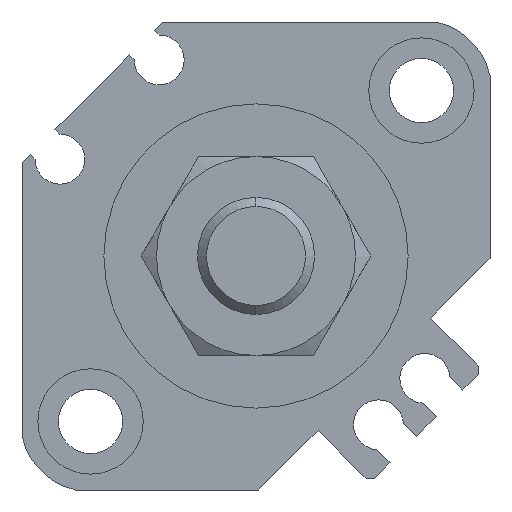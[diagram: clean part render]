
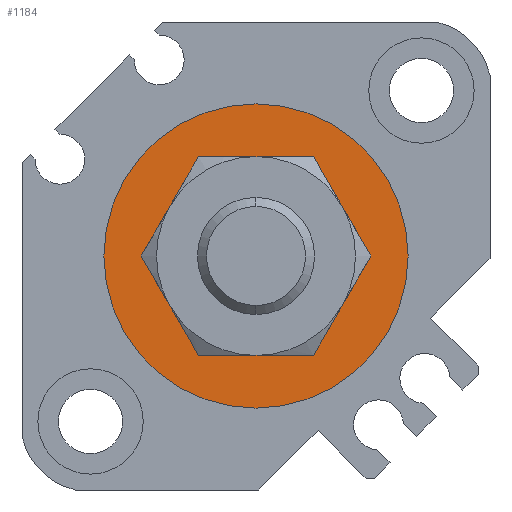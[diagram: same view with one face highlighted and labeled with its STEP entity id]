
A CAD part, left-side view. The second image highlights one B-rep face of the part: STEP entity #1184.
In plain terms, the highlighted planar face has unit normal (-1, 0, 0).
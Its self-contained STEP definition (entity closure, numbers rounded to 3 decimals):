
#148 = CARTESIAN_POINT ( 'NONE',  ( 1.9, 0., 0. ) ) ;
#215 = DIRECTION ( 'NONE',  ( 1., 0., 0. ) ) ;
#335 = DIRECTION ( 'NONE',  ( 0., 0., -1. ) ) ;
#379 = EDGE_LOOP ( 'NONE', ( #3231, #2285 ) ) ;
#416 = EDGE_CURVE ( 'NONE', #3342, #2875, #1577, .T. ) ;
#439 = CARTESIAN_POINT ( 'NONE',  ( 1.9, 0., -13. ) ) ;
#587 = VERTEX_POINT ( 'NONE', #439 ) ;
#630 = AXIS2_PLACEMENT_3D ( 'NONE', #3228, #215, #3946 ) ;
#992 = CIRCLE ( 'NONE', #2401, 7.5 ) ;
#1136 = DIRECTION ( 'NONE',  ( 1., 0., 0. ) ) ;
#1184 = ADVANCED_FACE ( 'NONE', ( #2029, #5380 ), #1594, .F. ) ;
#1577 = CIRCLE ( 'NONE', #3750, 7.5 ) ;
#1594 = PLANE ( 'NONE',  #2707 ) ;
#2029 = FACE_OUTER_BOUND ( 'NONE', #2983, .T. ) ;
#2285 = ORIENTED_EDGE ( 'NONE', *, *, #416, .T. ) ;
#2401 = AXIS2_PLACEMENT_3D ( 'NONE', #4690, #2982, #3808 ) ;
#2489 = DIRECTION ( 'NONE',  ( 1., 0., 0. ) ) ;
#2538 = DIRECTION ( 'NONE',  ( 0., 0., -1. ) ) ;
#2539 = CARTESIAN_POINT ( 'NONE',  ( 1.9, 0., 13. ) ) ;
#2648 = CARTESIAN_POINT ( 'NONE',  ( 1.9, 0., -7.5 ) ) ;
#2707 = AXIS2_PLACEMENT_3D ( 'NONE', #4488, #2489, #4154 ) ;
#2875 = VERTEX_POINT ( 'NONE', #4916 ) ;
#2923 = CIRCLE ( 'NONE', #3627, 13. ) ;
#2982 = DIRECTION ( 'NONE',  ( 1., 0., 0. ) ) ;
#2983 = EDGE_LOOP ( 'NONE', ( #3669, #5057 ) ) ;
#2991 = VERTEX_POINT ( 'NONE', #2539 ) ;
#2998 = CIRCLE ( 'NONE', #630, 13. ) ;
#3228 = CARTESIAN_POINT ( 'NONE',  ( 1.9, 0., 0. ) ) ;
#3231 = ORIENTED_EDGE ( 'NONE', *, *, #4906, .T. ) ;
#3342 = VERTEX_POINT ( 'NONE', #2648 ) ;
#3627 = AXIS2_PLACEMENT_3D ( 'NONE', #148, #5128, #2538 ) ;
#3669 = ORIENTED_EDGE ( 'NONE', *, *, #5298, .F. ) ;
#3750 = AXIS2_PLACEMENT_3D ( 'NONE', #5219, #1136, #335 ) ;
#3808 = DIRECTION ( 'NONE',  ( 0., 0., -1. ) ) ;
#3865 = EDGE_CURVE ( 'NONE', #587, #2991, #2923, .T. ) ;
#3946 = DIRECTION ( 'NONE',  ( 0., 0., -1. ) ) ;
#4154 = DIRECTION ( 'NONE',  ( 0., 1., 0. ) ) ;
#4488 = CARTESIAN_POINT ( 'NONE',  ( 1.9, 0., 0. ) ) ;
#4690 = CARTESIAN_POINT ( 'NONE',  ( 1.9, 0., 0. ) ) ;
#4906 = EDGE_CURVE ( 'NONE', #2875, #3342, #992, .T. ) ;
#4916 = CARTESIAN_POINT ( 'NONE',  ( 1.9, 0., 7.5 ) ) ;
#5057 = ORIENTED_EDGE ( 'NONE', *, *, #3865, .F. ) ;
#5128 = DIRECTION ( 'NONE',  ( 1., 0., 0. ) ) ;
#5219 = CARTESIAN_POINT ( 'NONE',  ( 1.9, 0., 0. ) ) ;
#5298 = EDGE_CURVE ( 'NONE', #2991, #587, #2998, .T. ) ;
#5380 = FACE_BOUND ( 'NONE', #379, .T. ) ;
